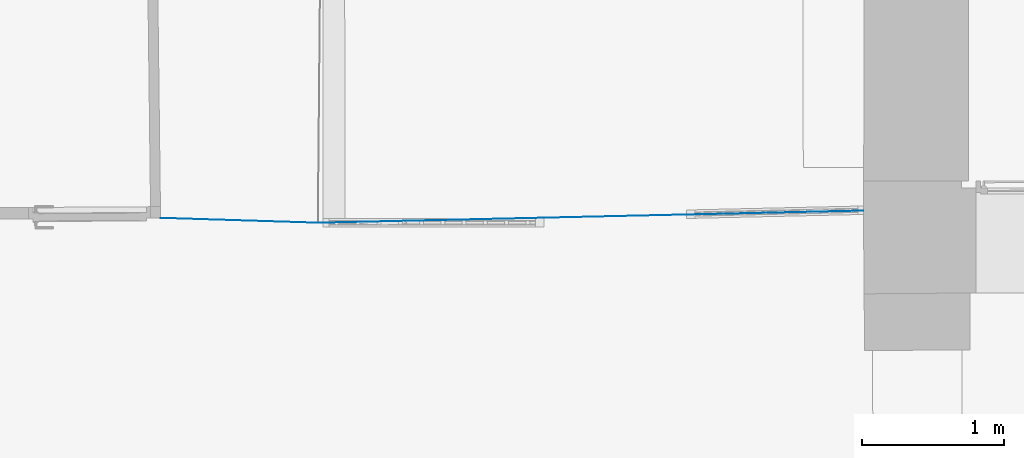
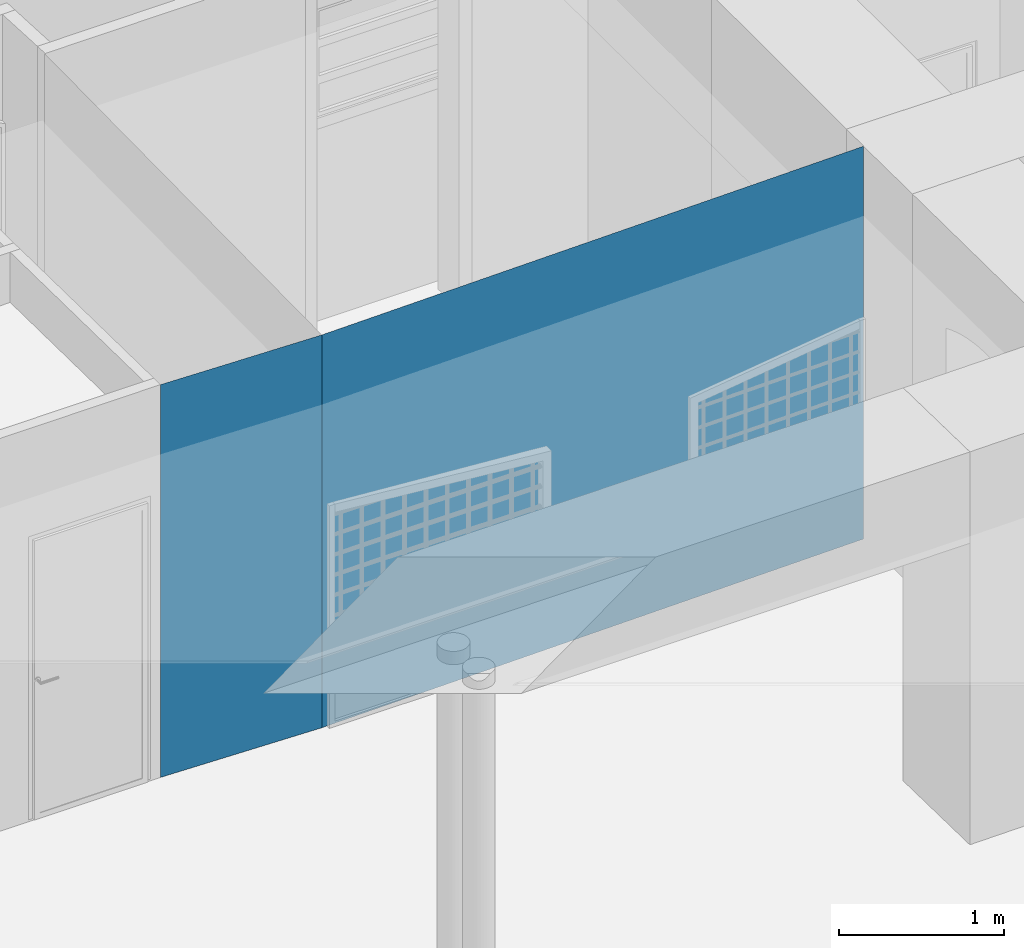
# One storey, part 104 of 133: 2 walls.
"""IFC2X3 building model written with IfcOpenShell, lengths in centimetres."""

from ifc_helpers import new_model, entity, si_unit, converted_unit, direction, frame, origin, origin_with_axes, place, context, subcontext, project, spatial, faceted_brep, material, layer, layer_set, layer_usage, type_object, element, save


model = new_model("IFC2X3")

# Units and contexts
model_context = context("Model", 3, precision=0.0001, world=origin(), true_north=direction((0.225632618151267, 0.974212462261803, 0.0)))
body_context = subcontext(model_context, "Body", "Model", "MODEL_VIEW")
ifc_project = project(units=[si_unit("LENGTHUNIT", "METRE", prefix="CENTI"), si_unit("AREAUNIT", "SQUARE_METRE", prefix="CENTI"), si_unit("VOLUMEUNIT", "CUBIC_METRE", prefix="CENTI"), converted_unit("PLANEANGLEUNIT", "DEGREE", entity("IfcRatioMeasure", 0.0174532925), si_unit("PLANEANGLEUNIT", "RADIAN"), dimensions=[0, 0, 0, 0, 0, 0, 0])], contexts=[model_context])

# Site, building, storey
site_placement = place(None, origin_with_axes())
site = spatial("IfcSite", under=ifc_project, at=site_placement, Name="Default Site", CompositionType="ELEMENT")
building_placement = place(site_placement, origin_with_axes())
building = spatial("IfcBuilding", under=site, at=building_placement, Name="Default Building", CompositionType="ELEMENT")
storey_placement = place(building_placement, frame((0.0, 0.0, -291.400371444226), z_axis=(0.0, 0.0, 1.0), x_axis=(1.0, 0.0, 0.0)))
storey = spatial("IfcBuildingStorey", under=building, at=storey_placement, Name="Rez-de-Jardin", CompositionType="ELEMENT", Elevation=-291.400371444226)

# Walls
ifc_material = material(Name="<aucun>")
ifc_layer = layer(ifc_material, 0.0101999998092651)
ifc_layer_set = layer_set([ifc_layer], Name="default")
ifc_layer_usage_1 = layer_usage(ifc_layer_set, "AXIS2", "POSITIVE", -0.0051)
wall_type = type_object("IfcWallType", Name="default 0.101999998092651", PredefinedType="NOTDEFINED", material=ifc_layer_set)
wall_1_placement = place(storey_placement, frame((-154.877763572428, 203.499577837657, 0.0), z_axis=(0.0, 0.0, 1.0), x_axis=(-0.999523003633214, 0.0308830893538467, 0.0)))
element("IfcWall", 1, at=wall_1_placement, inside=storey, type_object=wall_type, material=ifc_layer_usage_1, Name="Enveloppe fantôme 78703", context=body_context, shape_type="Brep", body=[
    faceted_brep([(111.204710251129, -4.69733987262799e-06, 1.03831293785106e-05), (-5.49449463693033e-06, -4.70180372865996e-06, 1.03831293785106e-05), (-5.49449463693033e-06, -4.70180372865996e-06, 291.413221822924), (111.204710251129, -4.69733987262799e-06, 291.413221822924), (-5.49449463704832e-06, -1.76249690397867e-06, 1.03831293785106e-05), (111.204710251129, -1.75803304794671e-06, 1.03831293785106e-05), (111.204710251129, -1.75803304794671e-06, 291.413221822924), (-5.49449463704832e-06, -1.76249690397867e-06, 291.413221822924)], [[[0, 1, 2, 3]], [[4, 5, 6, 7]]]),
])
ifc_layer_usage_2 = layer_usage(ifc_layer_set, "AXIS2", "POSITIVE", -0.0051)
wall_2_placement = place(storey_placement, frame((-154.877763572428, 203.499577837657, 0.0), z_axis=(0.0, 0.0, 1.0), x_axis=(0.999752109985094, 0.0222647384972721, 0.0)))
element("IfcWall", 2, at=wall_2_placement, inside=storey, type_object=wall_type, material=ifc_layer_usage_2, Name="Enveloppe fantôme 77642", context=body_context, shape_type="Brep", body=[
    faceted_brep([(385.092381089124, 5.53089156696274e-06, 1.03831293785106e-05), (5.58037500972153e-06, 5.813641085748e-06, 1.03831293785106e-05), (5.58037500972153e-06, 5.813641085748e-06, 291.413221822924), (385.092381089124, 5.53089156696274e-06, 291.413221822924), (5.58037500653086e-06, 1.46808756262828e-06, 1.03831293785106e-05), (385.092381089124, 1.18533804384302e-06, 1.03831293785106e-05), (385.092381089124, 1.18533804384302e-06, 291.413221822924), (5.58037500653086e-06, 1.46808756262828e-06, 291.413221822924)], [[[0, 1, 2, 3]], [[4, 5, 6, 7]]]),
])

save(model, "model.ifc")
